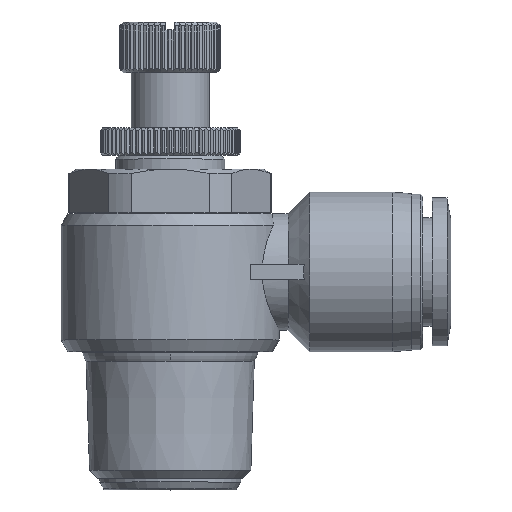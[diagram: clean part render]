
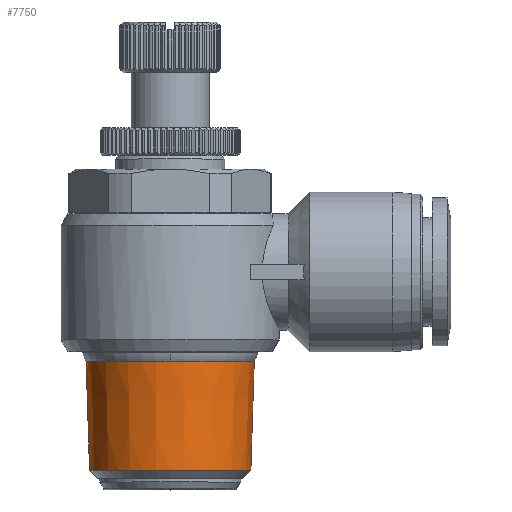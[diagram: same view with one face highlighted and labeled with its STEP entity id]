
A CAD part, top view. The second image highlights one B-rep face of the part: STEP entity #7750.
In plain terms, the highlighted conical face has half-angle 1.79 degrees and reference radius 10.582 mm.
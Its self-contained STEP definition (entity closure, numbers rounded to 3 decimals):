
#13 = CARTESIAN_POINT ( 'NONE',  ( 10.363, 2.532, 0. ) ) ;
#179 = DIRECTION ( 'NONE',  ( 0.031, 1., 0. ) ) ;
#310 = CARTESIAN_POINT ( 'NONE',  ( 0., 16.5, 0. ) ) ;
#595 = FACE_OUTER_BOUND ( 'NONE', #2859, .T. ) ;
#682 = ORIENTED_EDGE ( 'NONE', *, *, #954, .F. ) ;
#954 = EDGE_CURVE ( 'NONE', #9918, #10082, #8964, .T. ) ;
#1085 = DIRECTION ( 'NONE',  ( -0.031, 1., 0. ) ) ;
#2061 = DIRECTION ( 'NONE',  ( 0., 1., 0. ) ) ;
#2206 = ORIENTED_EDGE ( 'NONE', *, *, #8910, .T. ) ;
#2859 = EDGE_LOOP ( 'NONE', ( #2206, #7357, #12957, #14145, #682 ) ) ;
#3275 = CARTESIAN_POINT ( 'NONE',  ( -10.8, 16.5, 0. ) ) ;
#3422 = CARTESIAN_POINT ( 'NONE',  ( 0., 9.516, 0. ) ) ;
#3916 = CARTESIAN_POINT ( 'NONE',  ( 10.8, 16.5, 0. ) ) ;
#4719 = DIRECTION ( 'NONE',  ( 0., 1., 0. ) ) ;
#5579 = AXIS2_PLACEMENT_3D ( 'NONE', #11164, #4719, #7464 ) ;
#5921 = CIRCLE ( 'NONE', #10843, 10.8 ) ;
#7095 = DIRECTION ( 'NONE',  ( -1., 0., 0. ) ) ;
#7199 = CONICAL_SURFACE ( 'NONE', #14320, 10.582, 0.031 ) ;
#7357 = ORIENTED_EDGE ( 'NONE', *, *, #11927, .T. ) ;
#7464 = DIRECTION ( 'NONE',  ( -1., 0., 0. ) ) ;
#7750 = ADVANCED_FACE ( 'NONE', ( #595 ), #7199, .T. ) ;
#7891 = VERTEX_POINT ( 'NONE', #15573 ) ;
#7928 = VERTEX_POINT ( 'NONE', #3916 ) ;
#8259 = DIRECTION ( 'NONE',  ( 0., 1., 0. ) ) ;
#8910 = EDGE_CURVE ( 'NONE', #9918, #16175, #12986, .T. ) ;
#8964 = LINE ( 'NONE', #11536, #15149 ) ;
#9082 = CARTESIAN_POINT ( 'NONE',  ( 0., 16.5, 0. ) ) ;
#9918 = VERTEX_POINT ( 'NONE', #11461 ) ;
#10082 = VERTEX_POINT ( 'NONE', #3275 ) ;
#10744 = DIRECTION ( 'NONE',  ( -1., 0., 0. ) ) ;
#10843 = AXIS2_PLACEMENT_3D ( 'NONE', #9082, #14158, #14315 ) ;
#11164 = CARTESIAN_POINT ( 'NONE',  ( 0., 2.532, 0. ) ) ;
#11341 = AXIS2_PLACEMENT_3D ( 'NONE', #310, #8259, #10744 ) ;
#11461 = CARTESIAN_POINT ( 'NONE',  ( -10.363, 2.532, 0. ) ) ;
#11536 = CARTESIAN_POINT ( 'NONE',  ( -10.582, 9.516, 0. ) ) ;
#11666 = LINE ( 'NONE', #11910, #13303 ) ;
#11831 = EDGE_CURVE ( 'NONE', #10082, #7891, #5921, .T. ) ;
#11910 = CARTESIAN_POINT ( 'NONE',  ( 10.582, 9.516, 0. ) ) ;
#11927 = EDGE_CURVE ( 'NONE', #16175, #7928, #11666, .T. ) ;
#12863 = EDGE_CURVE ( 'NONE', #7891, #7928, #14608, .T. ) ;
#12957 = ORIENTED_EDGE ( 'NONE', *, *, #12863, .F. ) ;
#12986 = CIRCLE ( 'NONE', #5579, 10.363 ) ;
#13303 = VECTOR ( 'NONE', #179, 1000. ) ;
#14145 = ORIENTED_EDGE ( 'NONE', *, *, #11831, .F. ) ;
#14158 = DIRECTION ( 'NONE',  ( 0., 1., 0. ) ) ;
#14315 = DIRECTION ( 'NONE',  ( -1., 0., 0. ) ) ;
#14320 = AXIS2_PLACEMENT_3D ( 'NONE', #3422, #2061, #7095 ) ;
#14608 = CIRCLE ( 'NONE', #11341, 10.8 ) ;
#15149 = VECTOR ( 'NONE', #1085, 1000. ) ;
#15573 = CARTESIAN_POINT ( 'NONE',  ( 0., 16.5, 10.8 ) ) ;
#16175 = VERTEX_POINT ( 'NONE', #13 ) ;
